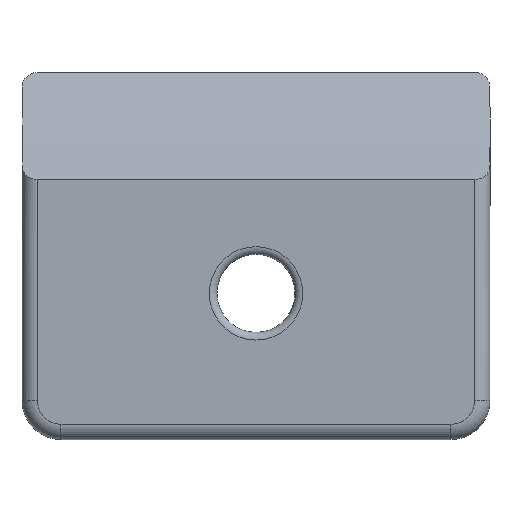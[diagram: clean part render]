
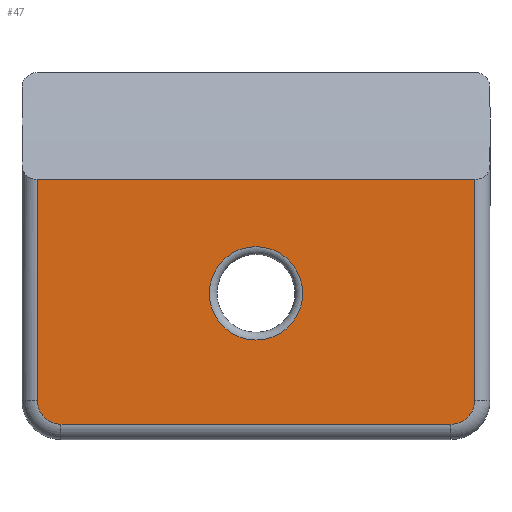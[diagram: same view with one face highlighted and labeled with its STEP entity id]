
A CAD part, front view. The second image highlights one B-rep face of the part: STEP entity #47.
In plain terms, the highlighted planar face has unit normal (0, -1, 0).
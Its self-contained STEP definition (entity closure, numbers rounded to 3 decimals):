
#47 = ADVANCED_FACE( '', ( #107, #108 ), #109, .T. );
#107 = FACE_BOUND( '', #182, .T. );
#108 = FACE_OUTER_BOUND( '', #183, .T. );
#109 = PLANE( '', #184 );
#182 = EDGE_LOOP( '', ( #256 ) );
#183 = EDGE_LOOP( '', ( #257, #258, #259, #260, #261, #262 ) );
#184 = AXIS2_PLACEMENT_3D( '', #263, #264, #265 );
#256 = ORIENTED_EDGE( '', *, *, #425, .T. );
#257 = ORIENTED_EDGE( '', *, *, #426, .T. );
#258 = ORIENTED_EDGE( '', *, *, #427, .T. );
#259 = ORIENTED_EDGE( '', *, *, #428, .F. );
#260 = ORIENTED_EDGE( '', *, *, #429, .T. );
#261 = ORIENTED_EDGE( '', *, *, #430, .T. );
#262 = ORIENTED_EDGE( '', *, *, #431, .T. );
#263 = CARTESIAN_POINT( '', ( -76.2, -19.05, 50.8 ) );
#264 = DIRECTION( '', ( 0., -1., 0. ) );
#265 = DIRECTION( '', ( 0., 0., -1. ) );
#425 = EDGE_CURVE( '', #494, #494, #495, .F. );
#426 = EDGE_CURVE( '', #496, #497, #498, .T. );
#427 = EDGE_CURVE( '', #497, #499, #500, .T. );
#428 = EDGE_CURVE( '', #501, #499, #502, .F. );
#429 = EDGE_CURVE( '', #501, #503, #504, .T. );
#430 = EDGE_CURVE( '', #503, #505, #506, .T. );
#431 = EDGE_CURVE( '', #505, #496, #507, .T. );
#494 = VERTEX_POINT( '', #591 );
#495 = CIRCLE( '', #592, 15.2 );
#496 = VERTEX_POINT( '', #593 );
#497 = VERTEX_POINT( '', #594 );
#498 = CIRCLE( '', #595, 7.7 );
#499 = VERTEX_POINT( '', #596 );
#500 = LINE( '', #597, #598 );
#501 = VERTEX_POINT( '', #599 );
#502 = LINE( '', #600, #601 );
#503 = VERTEX_POINT( '', #602 );
#504 = LINE( '', #603, #604 );
#505 = VERTEX_POINT( '', #605 );
#506 = CIRCLE( '', #606, 7.7 );
#507 = LINE( '', #607, #608 );
#591 = CARTESIAN_POINT( '', ( 0., -19.05, -69.2 ) );
#592 = AXIS2_PLACEMENT_3D( '', #764, #765, #766 );
#593 = CARTESIAN_POINT( '', ( 63.5, -19.05, -96.6 ) );
#594 = CARTESIAN_POINT( '', ( 71.2, -19.05, -88.9 ) );
#595 = AXIS2_PLACEMENT_3D( '', #767, #768, #769 );
#596 = CARTESIAN_POINT( '', ( 71.2, -19.05, -16.909 ) );
#597 = CARTESIAN_POINT( '', ( 71.2, -19.05, -16.909 ) );
#598 = VECTOR( '', #770, 1000. );
#599 = CARTESIAN_POINT( '', ( -71.2, -19.05, -16.909 ) );
#600 = CARTESIAN_POINT( '', ( 76.2, -19.05, -16.909 ) );
#601 = VECTOR( '', #771, 1000. );
#602 = CARTESIAN_POINT( '', ( -71.2, -19.05, -88.9 ) );
#603 = CARTESIAN_POINT( '', ( -71.2, -19.05, -88.9 ) );
#604 = VECTOR( '', #772, 1000. );
#605 = CARTESIAN_POINT( '', ( -63.5, -19.05, -96.6 ) );
#606 = AXIS2_PLACEMENT_3D( '', #773, #774, #775 );
#607 = CARTESIAN_POINT( '', ( 63.5, -19.05, -96.6 ) );
#608 = VECTOR( '', #776, 1000. );
#764 = CARTESIAN_POINT( '', ( 0., -19.05, -54. ) );
#765 = DIRECTION( '', ( 0., -1., 0. ) );
#766 = DIRECTION( '', ( 0., 0., -1. ) );
#767 = CARTESIAN_POINT( '', ( 63.5, -19.05, -88.9 ) );
#768 = DIRECTION( '', ( 0., -1., 0. ) );
#769 = DIRECTION( '', ( 0., 0., -1. ) );
#770 = DIRECTION( '', ( 0., 0., 1. ) );
#771 = DIRECTION( '', ( -1., 0., 0. ) );
#772 = DIRECTION( '', ( 0., 0., -1. ) );
#773 = CARTESIAN_POINT( '', ( -63.5, -19.05, -88.9 ) );
#774 = DIRECTION( '', ( 0., -1., 0. ) );
#775 = DIRECTION( '', ( 0., 0., -1. ) );
#776 = DIRECTION( '', ( 1., 0., 0. ) );
